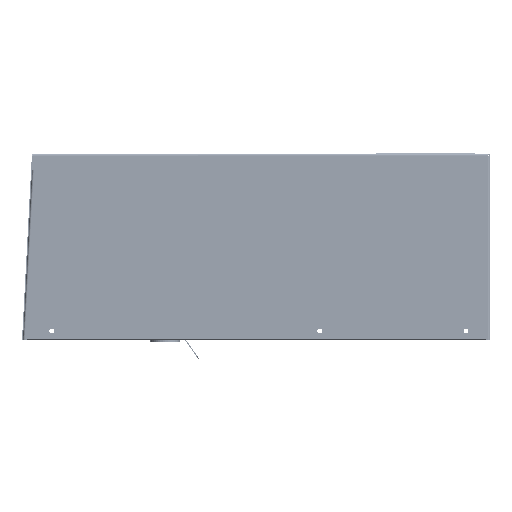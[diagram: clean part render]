
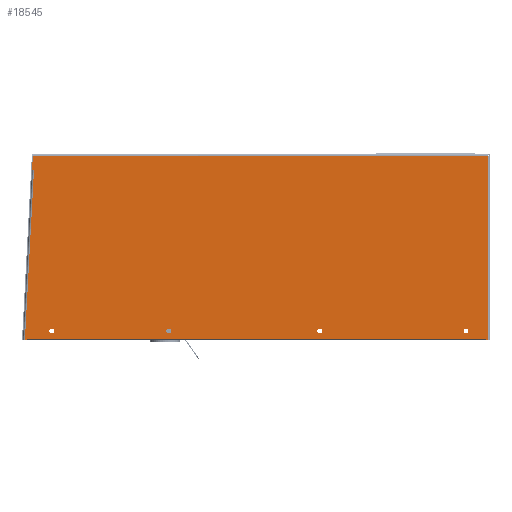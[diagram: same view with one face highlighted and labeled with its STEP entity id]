
A CAD part, left-side view. The second image highlights one B-rep face of the part: STEP entity #18545.
In plain terms, the highlighted planar face has unit normal (-1, 0, 0).
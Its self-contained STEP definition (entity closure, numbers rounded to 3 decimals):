
#6843=DIRECTION('',(0.,1.,0.));
#6844=VECTOR('',#6843,467.558);
#6845=CARTESIAN_POINT('',(-127.,1.,188.));
#6846=LINE('',#6845,#6844);
#6928=DIRECTION('',(0.,-0.999,-0.053));
#6929=VECTOR('',#6928,2.);
#6930=CARTESIAN_POINT('',(-127.,469.359,173.021));
#6931=LINE('',#6930,#6929);
#6936=DIRECTION('',(0.,-0.053,0.999));
#6937=VECTOR('',#6936,174.163);
#6938=CARTESIAN_POINT('',(-127.,476.663,-1.));
#6939=LINE('',#6938,#6937);
#6940=DIRECTION('',(0.,-0.053,0.999));
#6941=VECTOR('',#6940,15.);
#6942=CARTESIAN_POINT('',(-127.,469.359,173.021));
#6943=LINE('',#6942,#6941);
#6944=DIRECTION('',(0.,0.,1.));
#6945=VECTOR('',#6944,1.);
#6946=CARTESIAN_POINT('',(-127.,3.,-1.));
#6947=LINE('',#6946,#6945);
#6948=CARTESIAN_POINT('',(-127.,449.144,7.97));
#6949=DIRECTION('',(-1.,0.,0.));
#6950=DIRECTION('',(0.,-1.,0.));
#6951=AXIS2_PLACEMENT_3D('',#6948,#6949,#6950);
#6953=CARTESIAN_POINT('',(-127.,449.144,7.97));
#6954=DIRECTION('',(-1.,0.,0.));
#6955=DIRECTION('',(0.,1.,0.));
#6956=AXIS2_PLACEMENT_3D('',#6953,#6954,#6955);
#6958=CARTESIAN_POINT('',(-127.,328.973,7.97));
#6959=DIRECTION('',(-1.,0.,0.));
#6960=DIRECTION('',(0.,-1.,0.));
#6961=AXIS2_PLACEMENT_3D('',#6958,#6959,#6960);
#6963=CARTESIAN_POINT('',(-127.,328.973,7.97));
#6964=DIRECTION('',(-1.,0.,0.));
#6965=DIRECTION('',(0.,1.,0.));
#6966=AXIS2_PLACEMENT_3D('',#6963,#6964,#6965);
#6968=CARTESIAN_POINT('',(-127.,173.751,7.97));
#6969=DIRECTION('',(-1.,0.,0.));
#6970=DIRECTION('',(0.,-1.,0.));
#6971=AXIS2_PLACEMENT_3D('',#6968,#6969,#6970);
#6973=CARTESIAN_POINT('',(-127.,173.751,7.97));
#6974=DIRECTION('',(-1.,0.,0.));
#6975=DIRECTION('',(0.,1.,0.));
#6976=AXIS2_PLACEMENT_3D('',#6973,#6974,#6975);
#6978=CARTESIAN_POINT('',(-127.,23.537,7.97));
#6979=DIRECTION('',(-1.,0.,0.));
#6980=DIRECTION('',(0.,-1.,0.));
#6981=AXIS2_PLACEMENT_3D('',#6978,#6979,#6980);
#6983=CARTESIAN_POINT('',(-127.,23.537,7.97));
#6984=DIRECTION('',(-1.,0.,0.));
#6985=DIRECTION('',(0.,1.,0.));
#6986=AXIS2_PLACEMENT_3D('',#6983,#6984,#6985);
#6992=DIRECTION('',(0.,-1.,0.));
#6993=VECTOR('',#6992,471.663);
#6994=CARTESIAN_POINT('',(-127.,474.663,0.));
#6995=LINE('',#6994,#6993);
#7022=DIRECTION('',(0.,-1.,0.));
#7023=VECTOR('',#7022,2.);
#7024=CARTESIAN_POINT('',(-127.,3.,-1.));
#7025=LINE('',#7024,#7023);
#7044=DIRECTION('',(0.,0.,1.));
#7045=VECTOR('',#7044,189.);
#7046=CARTESIAN_POINT('',(-127.,1.,-1.));
#7047=LINE('',#7046,#7045);
#7384=DIRECTION('',(0.,0.,1.));
#7385=VECTOR('',#7384,1.);
#7386=CARTESIAN_POINT('',(-127.,474.663,-1.));
#7387=LINE('',#7386,#7385);
#7392=DIRECTION('',(0.,-1.,0.));
#7393=VECTOR('',#7392,2.);
#7394=CARTESIAN_POINT('',(-127.,476.663,-1.));
#7395=LINE('',#7394,#7393);
#13210=CARTESIAN_POINT('',(-127.,1.,188.));
#13211=VERTEX_POINT('',#13210);
#13212=CARTESIAN_POINT('',(-127.,468.558,188.));
#13213=VERTEX_POINT('',#13212);
#13242=CARTESIAN_POINT('',(-127.,469.359,173.021));
#13244=VERTEX_POINT('',#13242);
#13245=CARTESIAN_POINT('',(-127.,467.362,172.915));
#13246=VERTEX_POINT('',#13245);
#13249=CARTESIAN_POINT('',(-127.,474.663,0.));
#13250=CARTESIAN_POINT('',(-127.,3.,0.));
#13251=VERTEX_POINT('',#13249);
#13252=VERTEX_POINT('',#13250);
#13253=CARTESIAN_POINT('',(-127.,474.663,-1.));
#13254=VERTEX_POINT('',#13253);
#13255=CARTESIAN_POINT('',(-127.,476.663,-1.));
#13256=VERTEX_POINT('',#13255);
#13257=CARTESIAN_POINT('',(-127.,1.,-1.));
#13258=VERTEX_POINT('',#13257);
#13259=CARTESIAN_POINT('',(-127.,3.,-1.));
#13260=VERTEX_POINT('',#13259);
#13261=CARTESIAN_POINT('',(-127.,446.644,7.97));
#13262=CARTESIAN_POINT('',(-127.,451.644,7.97));
#13263=VERTEX_POINT('',#13261);
#13264=VERTEX_POINT('',#13262);
#13265=CARTESIAN_POINT('',(-127.,326.473,7.97));
#13266=CARTESIAN_POINT('',(-127.,331.473,7.97));
#13267=VERTEX_POINT('',#13265);
#13268=VERTEX_POINT('',#13266);
#13269=CARTESIAN_POINT('',(-127.,171.251,7.97));
#13270=CARTESIAN_POINT('',(-127.,176.251,7.97));
#13271=VERTEX_POINT('',#13269);
#13272=VERTEX_POINT('',#13270);
#13273=CARTESIAN_POINT('',(-127.,21.037,7.97));
#13274=CARTESIAN_POINT('',(-127.,26.037,7.97));
#13275=VERTEX_POINT('',#13273);
#13276=VERTEX_POINT('',#13274);
#18497=CARTESIAN_POINT('',(-127.,0.,0.));
#18498=DIRECTION('',(1.,0.,0.));
#18499=DIRECTION('',(0.,1.,0.));
#18500=AXIS2_PLACEMENT_3D('',#18497,#18498,#18499);
#18501=PLANE('',#18500);
#18503=ORIENTED_EDGE('',*,*,#18502,.F.);
#18505=ORIENTED_EDGE('',*,*,#18504,.F.);
#18507=ORIENTED_EDGE('',*,*,#18506,.F.);
#18509=ORIENTED_EDGE('',*,*,#18508,.T.);
#18510=ORIENTED_EDGE('',*,*,#18487,.F.);
#18511=ORIENTED_EDGE('',*,*,#18477,.T.);
#18512=ORIENTED_EDGE('',*,*,#18370,.F.);
#18514=ORIENTED_EDGE('',*,*,#18513,.F.);
#18516=ORIENTED_EDGE('',*,*,#18515,.F.);
#18518=ORIENTED_EDGE('',*,*,#18517,.T.);
#18519=EDGE_LOOP('',(#18503,#18505,#18507,#18509,#18510,#18511,#18512,#18514,
#18516,#18518));
#18520=FACE_OUTER_BOUND('',#18519,.F.);
#18522=ORIENTED_EDGE('',*,*,#18521,.T.);
#18524=ORIENTED_EDGE('',*,*,#18523,.T.);
#18525=EDGE_LOOP('',(#18522,#18524));
#18526=FACE_BOUND('',#18525,.F.);
#18528=ORIENTED_EDGE('',*,*,#18527,.T.);
#18530=ORIENTED_EDGE('',*,*,#18529,.T.);
#18531=EDGE_LOOP('',(#18528,#18530));
#18532=FACE_BOUND('',#18531,.F.);
#18534=ORIENTED_EDGE('',*,*,#18533,.T.);
#18536=ORIENTED_EDGE('',*,*,#18535,.T.);
#18537=EDGE_LOOP('',(#18534,#18536));
#18538=FACE_BOUND('',#18537,.F.);
#18540=ORIENTED_EDGE('',*,*,#18539,.T.);
#18542=ORIENTED_EDGE('',*,*,#18541,.T.);
#18543=EDGE_LOOP('',(#18540,#18542));
#18544=FACE_BOUND('',#18543,.F.);
#6952=CIRCLE('',#6951,2.5);
#6957=CIRCLE('',#6956,2.5);
#6962=CIRCLE('',#6961,2.5);
#6967=CIRCLE('',#6966,2.5);
#6972=CIRCLE('',#6971,2.5);
#6977=CIRCLE('',#6976,2.5);
#6982=CIRCLE('',#6981,2.5);
#6987=CIRCLE('',#6986,2.5);
#18370=EDGE_CURVE('',#13211,#13213,#6846,.T.);
#18477=EDGE_CURVE('',#13244,#13213,#6943,.T.);
#18487=EDGE_CURVE('',#13244,#13246,#6931,.T.);
#18502=EDGE_CURVE('',#13251,#13252,#6995,.T.);
#18504=EDGE_CURVE('',#13254,#13251,#7387,.T.);
#18506=EDGE_CURVE('',#13256,#13254,#7395,.T.);
#18508=EDGE_CURVE('',#13256,#13246,#6939,.T.);
#18513=EDGE_CURVE('',#13258,#13211,#7047,.T.);
#18515=EDGE_CURVE('',#13260,#13258,#7025,.T.);
#18517=EDGE_CURVE('',#13260,#13252,#6947,.T.);
#18521=EDGE_CURVE('',#13263,#13264,#6952,.T.);
#18523=EDGE_CURVE('',#13264,#13263,#6957,.T.);
#18527=EDGE_CURVE('',#13267,#13268,#6962,.T.);
#18529=EDGE_CURVE('',#13268,#13267,#6967,.T.);
#18533=EDGE_CURVE('',#13271,#13272,#6972,.T.);
#18535=EDGE_CURVE('',#13272,#13271,#6977,.T.);
#18539=EDGE_CURVE('',#13275,#13276,#6982,.T.);
#18541=EDGE_CURVE('',#13276,#13275,#6987,.T.);
#18545=ADVANCED_FACE('',(#18520,#18526,#18532,#18538,#18544),#18501,.F.);
